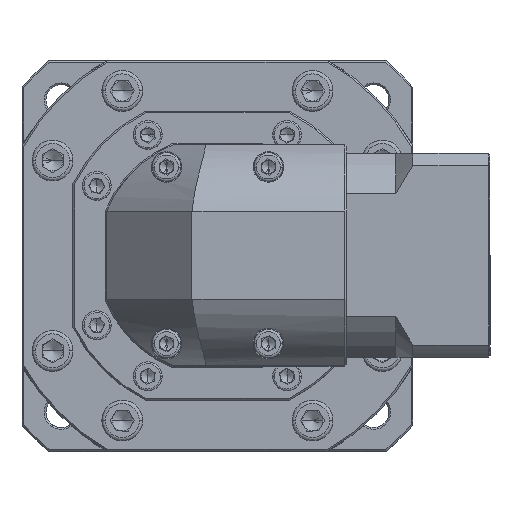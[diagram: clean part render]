
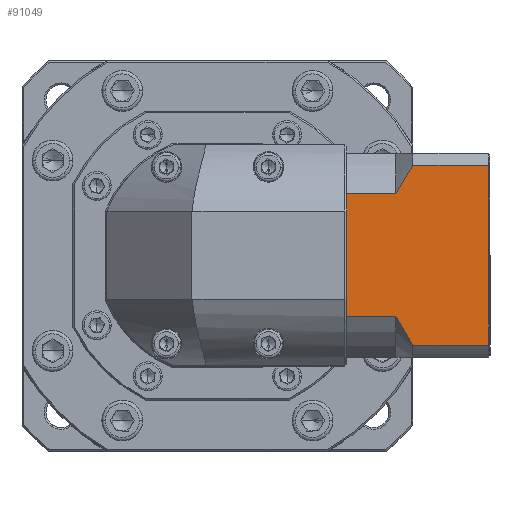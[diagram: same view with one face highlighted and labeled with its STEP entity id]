
A CAD part, top view. The second image highlights one B-rep face of the part: STEP entity #91049.
In plain terms, the highlighted planar face has unit normal (0, 0, 1).
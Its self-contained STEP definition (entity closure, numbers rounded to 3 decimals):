
#1441 = DIRECTION ( 'NONE',  ( 1., 0., 0. ) ) ;
#2412 = VECTOR ( 'NONE', #4625, 1000. ) ;
#4323 = VECTOR ( 'NONE', #31438, 1000. ) ;
#4625 = DIRECTION ( 'NONE',  ( -1., 0., 0. ) ) ;
#4632 = ORIENTED_EDGE ( 'NONE', *, *, #23193, .T. ) ;
#10548 = ORIENTED_EDGE ( 'NONE', *, *, #23767, .F. ) ;
#13800 = VECTOR ( 'NONE', #47125, 1000. ) ;
#14782 = CARTESIAN_POINT ( 'NONE',  ( 4.557, 29.365, 318.152 ) ) ;
#14919 = CARTESIAN_POINT ( 'NONE',  ( 4.557, 29.365, 318.152 ) ) ;
#14942 = CARTESIAN_POINT ( 'NONE',  ( 19.057, -18.663, 318.152 ) ) ;
#15730 = LINE ( 'NONE', #122629, #131294 ) ;
#16844 = CARTESIAN_POINT ( 'NONE',  ( 4.557, -18.663, 318.152 ) ) ;
#18810 = CARTESIAN_POINT ( 'NONE',  ( 19.057, 17.392, 318.152 ) ) ;
#21327 = DIRECTION ( 'NONE',  ( 1., 0., 0. ) ) ;
#23193 = EDGE_CURVE ( 'NONE', #96490, #130480, #65476, .T. ) ;
#23767 = EDGE_CURVE ( 'NONE', #92936, #130480, #26697, .T. ) ;
#26697 = LINE ( 'NONE', #144821, #79191 ) ;
#27815 = ORIENTED_EDGE ( 'NONE', *, *, #96738, .F. ) ;
#31203 = VERTEX_POINT ( 'NONE', #114249 ) ;
#31438 = DIRECTION ( 'NONE',  ( 0., 1., 0. ) ) ;
#31462 = B_SPLINE_CURVE_WITH_KNOTS ( 'NONE', 3,
 ( #98891, #42488, #143398, #76220, #88092, #119602 ),
 .UNSPECIFIED., .F., .F.,
 ( 4, 2, 4 ),
 ( 0.1, 0.104, 0.109 ),
 .UNSPECIFIED. ) ;
#32395 = CARTESIAN_POINT ( 'NONE',  ( 20.609, 20.276, 318.152 ) ) ;
#34510 = ORIENTED_EDGE ( 'NONE', *, *, #45501, .F. ) ;
#35900 = CARTESIAN_POINT ( 'NONE',  ( 19.057, -27.093, 318.152 ) ) ;
#37812 = DIRECTION ( 'NONE',  ( 0., -1., 0. ) ) ;
#39944 = LINE ( 'NONE', #35900, #13800 ) ;
#40670 = CARTESIAN_POINT ( 'NONE',  ( 46.757, 29.365, 318.152 ) ) ;
#41581 = VERTEX_POINT ( 'NONE', #16844 ) ;
#42488 = CARTESIAN_POINT ( 'NONE',  ( 19.807, -20.12, 318.152 ) ) ;
#45501 = EDGE_CURVE ( 'NONE', #82476, #121703, #39944, .T. ) ;
#45612 = CARTESIAN_POINT ( 'NONE',  ( 22.284, 23.083, 318.152 ) ) ;
#47125 = DIRECTION ( 'NONE',  ( -1., 0., 0. ) ) ;
#47664 = LINE ( 'NONE', #14919, #82678 ) ;
#51148 = ORIENTED_EDGE ( 'NONE', *, *, #136252, .T. ) ;
#51743 = VERTEX_POINT ( 'NONE', #68895 ) ;
#52465 = ORIENTED_EDGE ( 'NONE', *, *, #54100, .T. ) ;
#54100 = EDGE_CURVE ( 'NONE', #92936, #131054, #47664, .T. ) ;
#55416 = CARTESIAN_POINT ( 'NONE',  ( 46.257, -27.093, 318.152 ) ) ;
#57760 = VECTOR ( 'NONE', #21327, 1000. ) ;
#59379 = EDGE_LOOP ( 'NONE', ( #34510, #87687, #27815, #4632, #10548, #52465, #131705, #94624, #137578, #51148 ) ) ;
#62157 = PLANE ( 'NONE',  #108371 ) ;
#65476 = B_SPLINE_CURVE_WITH_KNOTS ( 'NONE', 3,
 ( #77893, #122017, #45612, #32395, #112246, #67547 ),
 .UNSPECIFIED., .F., .F.,
 ( 4, 2, 4 ),
 ( 0.052, 0.057, 0.062 ),
 .UNSPECIFIED. ) ;
#67547 = CARTESIAN_POINT ( 'NONE',  ( 19.057, 17.392, 318.152 ) ) ;
#68895 = CARTESIAN_POINT ( 'NONE',  ( 4.557, -17.672, 318.152 ) ) ;
#70023 = FACE_OUTER_BOUND ( 'NONE', #59379, .T. ) ;
#71843 = DIRECTION ( 'NONE',  ( 0., -1., 0. ) ) ;
#76220 = CARTESIAN_POINT ( 'NONE',  ( 22.282, -24.35, 318.152 ) ) ;
#77893 = CARTESIAN_POINT ( 'NONE',  ( 24.057, 25.822, 318.152 ) ) ;
#79186 = CARTESIAN_POINT ( 'NONE',  ( 4.557, 17.392, 318.152 ) ) ;
#79191 = VECTOR ( 'NONE', #1441, 1000. ) ;
#81071 = EDGE_CURVE ( 'NONE', #131054, #51743, #112653, .T. ) ;
#82476 = VERTEX_POINT ( 'NONE', #55416 ) ;
#82678 = VECTOR ( 'NONE', #37812, 1000. ) ;
#86597 = CARTESIAN_POINT ( 'NONE',  ( 4.557, 16.401, 318.152 ) ) ;
#87687 = ORIENTED_EDGE ( 'NONE', *, *, #95538, .T. ) ;
#88092 = CARTESIAN_POINT ( 'NONE',  ( 23.156, -25.73, 318.152 ) ) ;
#91049 = ADVANCED_FACE ( 'NONE', ( #70023 ), #62157, .F. ) ;
#92624 = CARTESIAN_POINT ( 'NONE',  ( 19.057, -18.663, 318.152 ) ) ;
#92936 = VERTEX_POINT ( 'NONE', #79186 ) ;
#93440 = VECTOR ( 'NONE', #71843, 1000. ) ;
#94624 = ORIENTED_EDGE ( 'NONE', *, *, #105542, .T. ) ;
#95538 = EDGE_CURVE ( 'NONE', #82476, #31203, #135622, .T. ) ;
#96490 = VERTEX_POINT ( 'NONE', #116858 ) ;
#96738 = EDGE_CURVE ( 'NONE', #96490, #31203, #124421, .T. ) ;
#96927 = LINE ( 'NONE', #14942, #2412 ) ;
#98891 = CARTESIAN_POINT ( 'NONE',  ( 19.057, -18.663, 318.152 ) ) ;
#105542 = EDGE_CURVE ( 'NONE', #51743, #41581, #15730, .T. ) ;
#108289 = DIRECTION ( 'NONE',  ( 1., 0., 0. ) ) ;
#108371 = AXIS2_PLACEMENT_3D ( 'NONE', #40670, #109270, #108289 ) ;
#109270 = DIRECTION ( 'NONE',  ( 0., 0., -1. ) ) ;
#110298 = CARTESIAN_POINT ( 'NONE',  ( 46.257, 29.365, 318.152 ) ) ;
#110914 = DIRECTION ( 'NONE',  ( 0., -1., 0. ) ) ;
#112246 = CARTESIAN_POINT ( 'NONE',  ( 19.805, 18.844, 318.152 ) ) ;
#112653 = LINE ( 'NONE', #14782, #93440 ) ;
#114249 = CARTESIAN_POINT ( 'NONE',  ( 46.257, 25.822, 318.152 ) ) ;
#116858 = CARTESIAN_POINT ( 'NONE',  ( 24.057, 25.822, 318.152 ) ) ;
#119602 = CARTESIAN_POINT ( 'NONE',  ( 24.057, -27.093, 318.152 ) ) ;
#121703 = VERTEX_POINT ( 'NONE', #138933 ) ;
#122017 = CARTESIAN_POINT ( 'NONE',  ( 23.158, 24.462, 318.152 ) ) ;
#122629 = CARTESIAN_POINT ( 'NONE',  ( 4.557, 29.365, 318.152 ) ) ;
#124063 = VERTEX_POINT ( 'NONE', #92624 ) ;
#124421 = LINE ( 'NONE', #144151, #57760 ) ;
#130480 = VERTEX_POINT ( 'NONE', #18810 ) ;
#131054 = VERTEX_POINT ( 'NONE', #86597 ) ;
#131294 = VECTOR ( 'NONE', #110914, 1000. ) ;
#131705 = ORIENTED_EDGE ( 'NONE', *, *, #81071, .T. ) ;
#135572 = EDGE_CURVE ( 'NONE', #124063, #41581, #96927, .T. ) ;
#135622 = LINE ( 'NONE', #110298, #4323 ) ;
#136252 = EDGE_CURVE ( 'NONE', #124063, #121703, #31462, .T. ) ;
#137578 = ORIENTED_EDGE ( 'NONE', *, *, #135572, .F. ) ;
#138933 = CARTESIAN_POINT ( 'NONE',  ( 24.057, -27.093, 318.152 ) ) ;
#143398 = CARTESIAN_POINT ( 'NONE',  ( 20.608, -21.545, 318.152 ) ) ;
#144151 = CARTESIAN_POINT ( 'NONE',  ( 19.057, 25.822, 318.152 ) ) ;
#144821 = CARTESIAN_POINT ( 'NONE',  ( 19.057, 17.392, 318.152 ) ) ;
